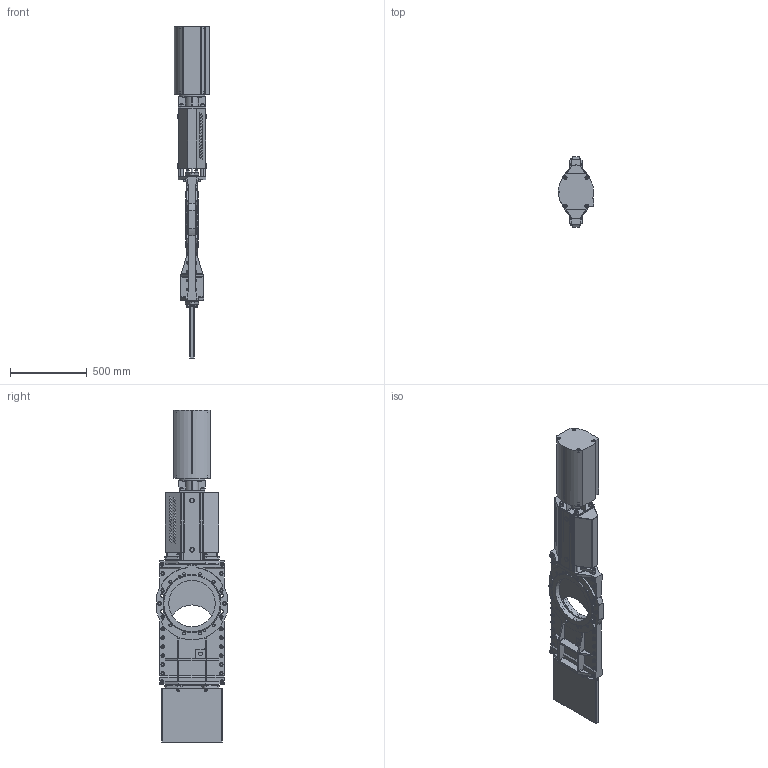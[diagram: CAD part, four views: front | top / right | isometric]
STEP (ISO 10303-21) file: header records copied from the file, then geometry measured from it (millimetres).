
FILE_DESCRIPTION(('STEP AP203'),'1');
FILE_NAME('F:/Alexander/tillfällig/NYABLOCK/HG-DN300-EC200.stp','2013-03-19T10:12:27',(' '),(' '),'Spatial InterOp 3D',' ',' ');
FILE_SCHEMA(('CONFIG_CONTROL_DESIGN'));
Length unit declared in the file: millimetre
Products named in the file (5): 1; 2; 3; 4; 5
Bounding box: 228.6 x 455 x 2156 mm (x, y, z)
Volume: 41593989.7 mm3; surface area: 4737944.4 mm2
Topology: 5 solids, 76 shells, 3573 faces, 8775 edges, 5565 vertices
Faces by surface type: plane 1372, cylinder 1093, cone 1052, torus 56
Entity records: 112248 total; most frequent: CARTESIAN_POINT 26808, DIRECTION 18254, ORIENTED_EDGE 17486, EDGE_CURVE 8743, AXIS2_PLACEMENT_3D 7297, VERTEX_POINT 5565, EDGE_LOOP 4122, CIRCLE 3683
